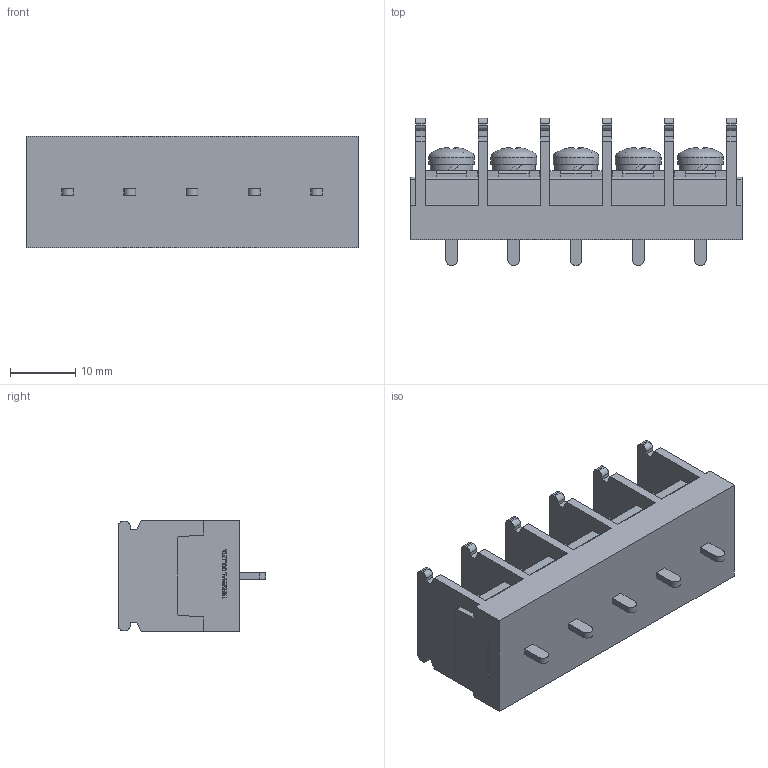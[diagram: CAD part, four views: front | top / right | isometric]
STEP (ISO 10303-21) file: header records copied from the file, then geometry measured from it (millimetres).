
FILE_DESCRIPTION(/* description */ ('Alibre Inc.'),/* implementation_level */ '2;1');
FILE_NAME(/* name */ 'export-EF11D8F8-18B4-4410-872F-5F056A104E3A',/* time_stamp */ '2020-11-04T18:10:43+09:00',/* author */ (''),/* organization */ (''),/* preprocessor_version */ 'ST-DEVELOPER v17',/* originating_system */ 'Alibre',/* authorisation */ '');
FILE_SCHEMA (('CONFIG_CONTROL_DESIGN'));
Length unit declared in the file: millimetre
Bounding box: 50.7 x 22.5 x 17 mm (x, y, z)
Volume: 9377.2 mm3; surface area: 6324.9 mm2
Topology: 1 solids, 22 shells, 821 faces, 2211 edges, 1469 vertices
Faces by surface type: plane 590, bspline 104, cylinder 87, cone 25, torus 10, sphere 5
Full cylindrical faces by diameter (mm): 4 x10, 6.5 x5, 7 x5
Entity records: 24734 total; most frequent: CARTESIAN_POINT 5478, ORIENTED_EDGE 4322, DIRECTION 3046, EDGE_CURVE 2161, VECTOR 1556, LINE 1556, VERTEX_POINT 1449, AXIS2_PLACEMENT_3D 1025
